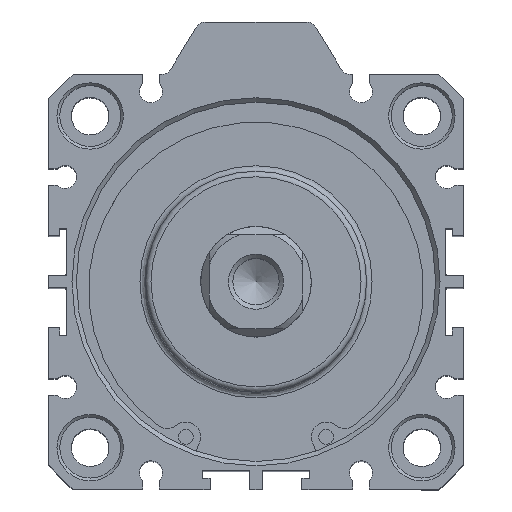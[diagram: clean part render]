
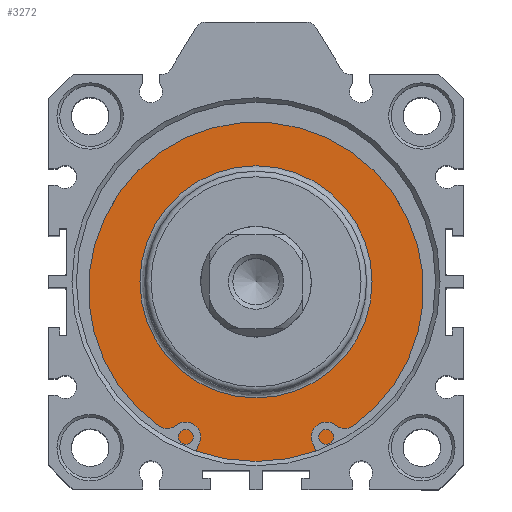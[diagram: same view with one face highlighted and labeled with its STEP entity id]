
A CAD part, top view. The second image highlights one B-rep face of the part: STEP entity #3272.
In plain terms, the highlighted planar face has unit normal (0, 0, 1).
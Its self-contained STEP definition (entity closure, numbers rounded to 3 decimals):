
#3221=CARTESIAN_POINT('',(0.359,19.684,87.3));
#3222=VERTEX_POINT('',#3221);
#3223=CARTESIAN_POINT('',(0.359,-1.316,87.3));
#3224=DIRECTION('',(0.0,0.0,1.0));
#3225=DIRECTION('',(0.0,-1.0,0.0));
#3226=AXIS2_PLACEMENT_3D('',#3223,#3224,#3225);
#3227=CIRCLE('',#3226,21.);
#3228=EDGE_CURVE('',#3222,#3222,#3227,.T.);
#3253=CARTESIAN_POINT('',(0.359,24.934,87.3));
#3254=DIRECTION('',(0.0,0.0,1.0));
#3255=DIRECTION('',(1.0,0.0,0.0));
#3256=AXIS2_PLACEMENT_3D('',#3253,#3254,#3255);
#3257=PLANE('',#3256);
#3258=CARTESIAN_POINT('',(0.359,31.184,87.3));
#3259=VERTEX_POINT('',#3258);
#3260=CARTESIAN_POINT('',(0.359,-1.316,87.3));
#3261=DIRECTION('',(0.0,0.0,-1.0));
#3262=DIRECTION('',(0.0,1.0,0.0));
#3263=AXIS2_PLACEMENT_3D('',#3260,#3261,#3262);
#3264=CIRCLE('',#3263,32.5);
#3265=EDGE_CURVE('',#3259,#3259,#3264,.T.);
#3266=ORIENTED_EDGE('',*,*,#3265,.F.);
#3267=EDGE_LOOP('',(#3266));
#3268=FACE_OUTER_BOUND('',#3267,.T.);
#3269=ORIENTED_EDGE('',*,*,#3228,.F.);
#3270=EDGE_LOOP('',(#3269));
#3271=FACE_BOUND('',#3270,.T.);
#3272=ADVANCED_FACE('',(#3268,#3271),#3257,.T.);
